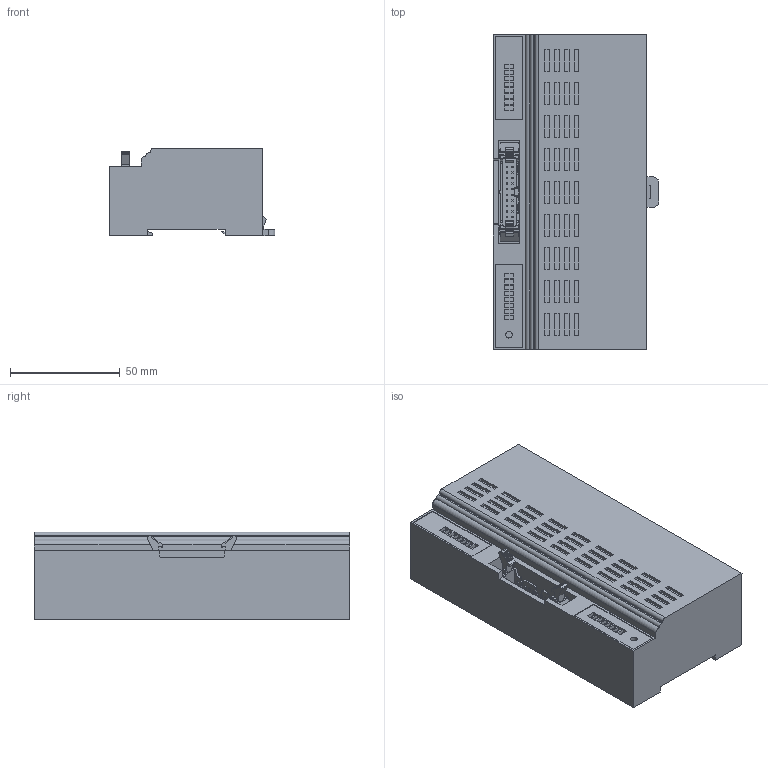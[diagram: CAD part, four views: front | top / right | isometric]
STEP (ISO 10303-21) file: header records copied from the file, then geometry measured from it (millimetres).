
FILE_DESCRIPTION(/* description */ (''),/* implementation_level */ '2;1');
FILE_NAME(/* name */ 'R16C-B.stp',/* time_stamp */ '2024-11-15T11:50:33+09:00',/* author */ (''),/* organization */ (''),/* preprocessor_version */ 'ST-DEVELOPER v16.7',/* originating_system */ 'SIEMENS PLM Software NX 12.0',/* authorisation */ '');
FILE_SCHEMA (('AP203_CONFIGURATION_CONTROLLED_3D_DESIGN_OF_MECHANICAL_PARTS_AND_ASSEMBLIES_MIM_LF { 1 0 10303 403 2 1 2}'));
Length unit declared in the file: millimetre
Products named in the file (1): wgye4F00130Ayvww
Bounding box: 75.5 x 143.6 x 39.9 mm (x, y, z)
Volume: 311735.6 mm3; surface area: 56626.1 mm2
Topology: 1 solids, 1 shells, 960 faces, 2558 edges, 1676 vertices
Faces by surface type: plane 889, cylinder 71
Full cylindrical faces by diameter (mm): 3 x1
Entity records: 29391 total; most frequent: CARTESIAN_POINT 5272, ORIENTED_EDGE 5114, DIRECTION 4599, EDGE_CURVE 2557, LINE 2385, VECTOR 2385, VERTEX_POINT 1676, AXIS2_PLACEMENT_3D 1107
